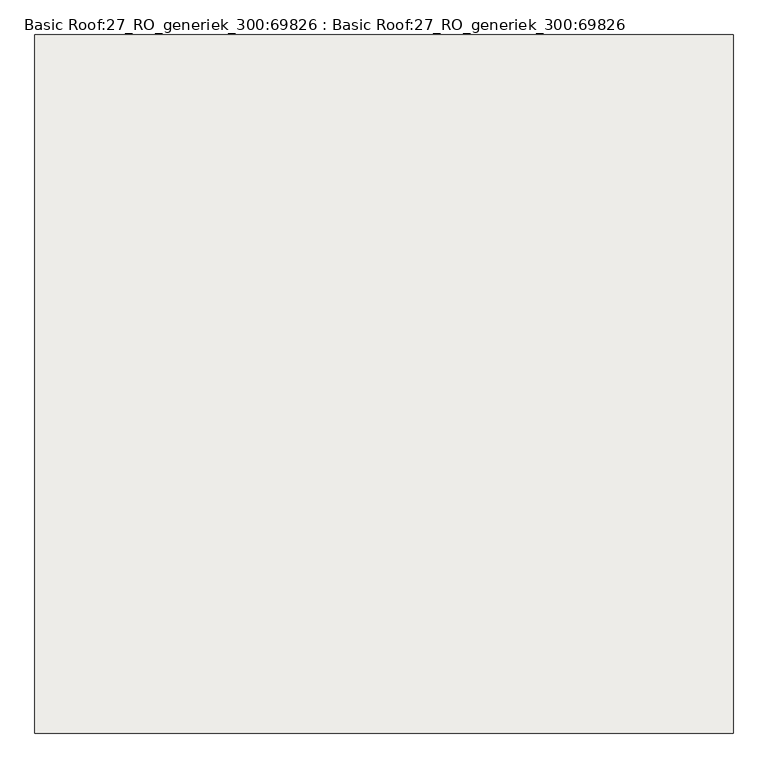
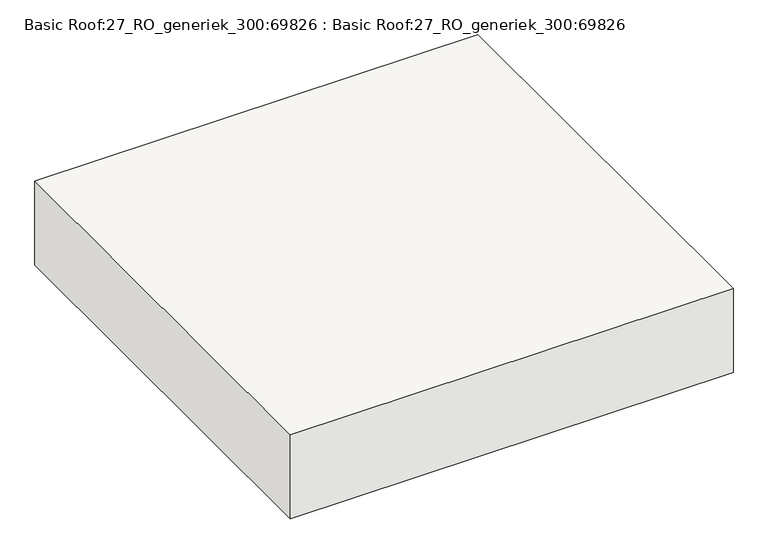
"""IFC4 building model written with IfcOpenShell, lengths in millimetres: roof geometry, Basic Roof:27_RO_generiek_300:69826 : Basic Roof:27_RO_generiek_300:69826."""

import ifcopenshell
import ifcopenshell.guid

model = None  # the IFC model being written
_history = None  # IfcOwnerHistory: only IFC2X3 demands one
_inside = {}  # id of a spatial element -> (the spatial element, [elements in it])
_under = {}  # id of a project, library or spatial element -> (it, [spatial elements below it])
_declared = {}  # id of a project -> (the project, [libraries it declares])
_typed = {}  # id of a type object -> (the type object, [elements of that type])
_made_of = {}  # id of a material, layer set ... -> (it, [elements and type objects made of it])


def new_model(schema):
    """Start an empty IFC model of exactly this schema.

    Asked for "IFC4X3", IfcOpenShell would pick the latest addendum, in which some entities
    have other attributes; the version numbers below select the first issue.
    IFC2X3 requires an IfcOwnerHistory on every rooted entity: one is made here for all.
    """
    global model, _history
    if schema == "IFC4X3":
        model = ifcopenshell.file(schema_version=(4, 3, 0, 0))
    else:
        model = ifcopenshell.file(schema=schema)
    _inside.clear()
    _under.clear()
    _declared.clear()
    _typed.clear()
    _made_of.clear()
    _history = None
    if model.schema == "IFC2X3":
        org = make("IfcOrganization", Name="unknown")
        user = make(
            "IfcPersonAndOrganization",
            ThePerson=make("IfcPerson", FamilyName="unknown"),
            TheOrganization=org,
        )
        app = make(
            "IfcApplication",
            ApplicationDeveloper=org,
            Version="unknown",
            ApplicationFullName="unknown",
            ApplicationIdentifier="unknown",
        )
        _history = make(
            "IfcOwnerHistory",
            OwningUser=user,
            OwningApplication=app,
            ChangeAction="ADDED",
            CreationDate=0,
        )
    return model


def make(cls, **values):
    """One entity of the class cls with the attributes given. An attribute that is None is left unset."""
    return model.create_entity(
        cls, **{name: value for name, value in values.items() if value is not None}
    )


def rooted(cls, **values):
    """An entity with a GlobalId (a new one), such as an element, a storey or a relation."""
    return make(cls, GlobalId=ifcopenshell.guid.new(), OwnerHistory=_history, **values)


def si_unit(unit_type, name, prefix=None):
    """IfcSIUnit, for example si_unit("LENGTHUNIT", "METRE", prefix="MILLI")."""
    return make("IfcSIUnit", UnitType=unit_type, Prefix=prefix, Name=name)


def assignment(units):
    """IfcUnitAssignment: the units of a project."""
    return None if units is None else make("IfcUnitAssignment", Units=units)


def point(xyz):
    """IfcCartesianPoint."""
    return None if xyz is None else make("IfcCartesianPoint", Coordinates=xyz)


def direction(xyz):
    """IfcDirection."""
    return None if xyz is None else make("IfcDirection", DirectionRatios=xyz)


def frame(location, z_axis=None, x_axis=None):
    """IfcAxis2Placement3D, a coordinate frame: its origin and axes. An axis left out is left unset."""
    return make(
        "IfcAxis2Placement3D",
        Location=point(location),
        Axis=direction(z_axis),
        RefDirection=direction(x_axis),
    )


def origin():
    """The frame at (0, 0, 0) with its axes left unset."""
    return frame((0.0, 0.0, 0.0))


def origin_with_axes():
    """The frame at (0, 0, 0) with the z axis (0, 0, 1) and the x axis (1, 0, 0) written out."""
    return frame((0.0, 0.0, 0.0), z_axis=(0.0, 0.0, 1.0), x_axis=(1.0, 0.0, 0.0))


def place(relative_to, where):
    """IfcLocalPlacement: puts the frame where relative to a parent placement (None: the world)."""
    return make(
        "IfcLocalPlacement", PlacementRelTo=relative_to, RelativePlacement=where
    )


def context(
    kind, dimensions, precision=None, world=None, true_north=None, identifier=None
):
    """IfcGeometricRepresentationContext, for example the 3D "Model" context."""
    return make(
        "IfcGeometricRepresentationContext",
        ContextIdentifier=identifier,
        ContextType=kind,
        CoordinateSpaceDimension=dimensions,
        Precision=precision,
        WorldCoordinateSystem=world,
        TrueNorth=true_north,
    )


def project(units=None, contexts=None):
    """IfcProject with its units and contexts."""
    return rooted(
        "IfcProject",
        Name="project",
        RepresentationContexts=contexts,
        UnitsInContext=assignment(units),
    )


def spatial(cls, under=None, at=None, **own):
    """A site, building, storey or space (cls), placed at a placement, below another one or the project."""
    s = rooted(cls, ObjectPlacement=at, **own)
    if under is not None:
        _under.setdefault(under.id(), (under, []))[1].append(s)
    return s


def polyline(points):
    """IfcPolyline through the points."""
    return make("IfcPolyline", Points=[point(p) for p in points])


def outline(outer, holes=None, kind="AREA"):
    """IfcArbitraryClosedProfileDef: a profile drawn as a closed curve; with holes, ...WithVoids."""
    if holes is None:
        return make("IfcArbitraryClosedProfileDef", ProfileType=kind, OuterCurve=outer)
    return make(
        "IfcArbitraryProfileDefWithVoids",
        ProfileType=kind,
        OuterCurve=outer,
        InnerCurves=holes,
    )


def extrude(swept, where, along, depth):
    """IfcExtrudedAreaSolid: the profile swept, set in the frame where, extruded along a direction by depth."""
    return make(
        "IfcExtrudedAreaSolid",
        SweptArea=swept,
        Position=where,
        ExtrudedDirection=direction(along),
        Depth=depth,
    )


def shape(context_of_items, identifier, shape_type, items):
    """IfcShapeRepresentation: the items that make up one representation, for example the "Body"."""
    return make(
        "IfcShapeRepresentation",
        ContextOfItems=context_of_items,
        RepresentationIdentifier=identifier,
        RepresentationType=shape_type,
        Items=items,
    )


def source(mapping_origin, context_of_items, identifier, shape_type, items):
    """IfcRepresentationMap: a shape defined once, which mapped items show again and again."""
    return make(
        "IfcRepresentationMap",
        MappingOrigin=mapping_origin,
        MappedRepresentation=shape(context_of_items, identifier, shape_type, items),
    )


def transform(
    local_origin,
    x_axis=None,
    y_axis=None,
    z_axis=None,
    scale=None,
    scale2=None,
    scale3=None,
    uniform=True,
):
    """IfcCartesianTransformationOperator3D, or its non-uniform kind. x_axis, y_axis, z_axis: its Axis1, 2, 3."""
    if uniform:
        return make(
            "IfcCartesianTransformationOperator3D",
            Axis1=direction(x_axis),
            Axis2=direction(y_axis),
            LocalOrigin=point(local_origin),
            Scale=scale,
            Axis3=direction(z_axis),
        )
    return make(
        "IfcCartesianTransformationOperator3DnonUniform",
        Axis1=direction(x_axis),
        Axis2=direction(y_axis),
        LocalOrigin=point(local_origin),
        Scale=scale,
        Axis3=direction(z_axis),
        Scale2=scale2,
        Scale3=scale3,
    )


def mapped(mapping_source, mapping_target):
    """IfcMappedItem: shows the shape of a source again, moved by a transform."""
    return make(
        "IfcMappedItem", MappingSource=mapping_source, MappingTarget=mapping_target
    )


def made_of(thing, what):
    """Note that an element or type object is made of a material, layer set ...; save() writes the relation."""
    if what is not None:
        _made_of.setdefault(what.id(), (what, []))[1].append(thing)
    return thing


def element(
    cls,
    number,
    at=None,
    inside=None,
    cuts=None,
    type_object=None,
    material=None,
    context=None,
    identifier="Body",
    shape_type=None,
    held_by="IfcProductDefinitionShape",
    body=None,
    shapes=None,
    **own,
):
    """One element of the class cls, such as IfcWall. Its Tag is "e" and its number.

    at: its placement. inside: the storey or other place that contains it. cuts: it is an
    opening in that element (IfcRelVoidsElement). A single representation is given by context,
    identifier, shape_type and body (its items); several are given by shapes. held_by: the class
    of the entity that holds the representations. save() writes the other relations.
    """
    e = rooted(cls, Tag="e%d" % number, ObjectPlacement=at, **own)
    if body is not None:
        shapes = [shape(context, identifier, shape_type, body)]
    if shapes is not None:
        e.Representation = make(held_by, Representations=shapes)
    if inside is not None:
        _inside.setdefault(inside.id(), (inside, []))[1].append(e)
    if cuts is not None:
        rooted(
            "IfcRelVoidsElement", RelatingBuildingElement=cuts, RelatedOpeningElement=e
        )
    if type_object is not None:
        _typed.setdefault(type_object.id(), (type_object, []))[1].append(e)
    return made_of(e, material)


def aggregate(whole, parts):
    """IfcRelAggregates: a whole, such as a stair, and the parts it consists of."""
    return rooted("IfcRelAggregates", RelatingObject=whole, RelatedObjects=parts)


def save(model, path):
    """Write the relations noted so far, then the file.

    IfcRelAggregates (storeys below a building ...), IfcRelContainedInSpatialStructure (elements
    in a storey), IfcRelDefinesByType, IfcRelAssociatesMaterial and IfcRelDeclares: one each for
    every whole, place, type object, material and project.
    """
    for whole, parts in _under.values():
        aggregate(whole, parts)
    for where, things in _inside.values():
        rooted(
            "IfcRelContainedInSpatialStructure",
            RelatedElements=things,
            RelatingStructure=where,
        )
    for kind, things in _typed.values():
        rooted("IfcRelDefinesByType", RelatedObjects=things, RelatingType=kind)
    for what, things in _made_of.values():
        rooted("IfcRelAssociatesMaterial", RelatedObjects=things, RelatingMaterial=what)
    for by, libraries in _declared.values():
        rooted("IfcRelDeclares", RelatingContext=by, RelatedDefinitions=libraries)
    model.write(path)


def basic_roof_27_ro_generiek_300_69826_basic_roof_27_ro_fdb68229(model_context):
    return source(origin(), model_context, "Body", "SweptSolid", [
        extrude(outline(polyline([(36193.347385, -5415.0), (34693.347385, -5415.0), (34693.347385, -3915.0), (36193.347385, -3915.0), (36193.347385, -5415.0)])), origin_with_axes(), (0.0, 0.0, 1.0), 300.0),
    ])


if __name__ == "__main__":
    model = new_model("IFC4")
    model_context = context("Model", 3, world=origin())
    ifc_project = project(units=[si_unit("LENGTHUNIT", "METRE", prefix="MILLI")], contexts=[model_context])
    site = spatial("IfcSite", under=ifc_project)
    building = spatial("IfcBuilding", under=site)
    placement = place(None, origin())
    basic_roof_27_ro_generiek_300_69826_basic_roof_27_ro_shape = basic_roof_27_ro_generiek_300_69826_basic_roof_27_ro_fdb68229(model_context)
    element("IfcRoof", 1, ObjectType="Basic Roof:27_RO_generiek_300:69826 : Basic Roof:27_RO_generiek_300:69826", at=placement, inside=building, context=model_context, shape_type="MappedRepresentation", body=[
        mapped(basic_roof_27_ro_generiek_300_69826_basic_roof_27_ro_shape, transform((0.0, 0.0, 0.0), x_axis=(1.0, 0.0, 0.0), y_axis=(0.0, 1.0, 0.0), z_axis=(0.0, 0.0, 1.0))),
    ])
    save(model, "model.ifc")
